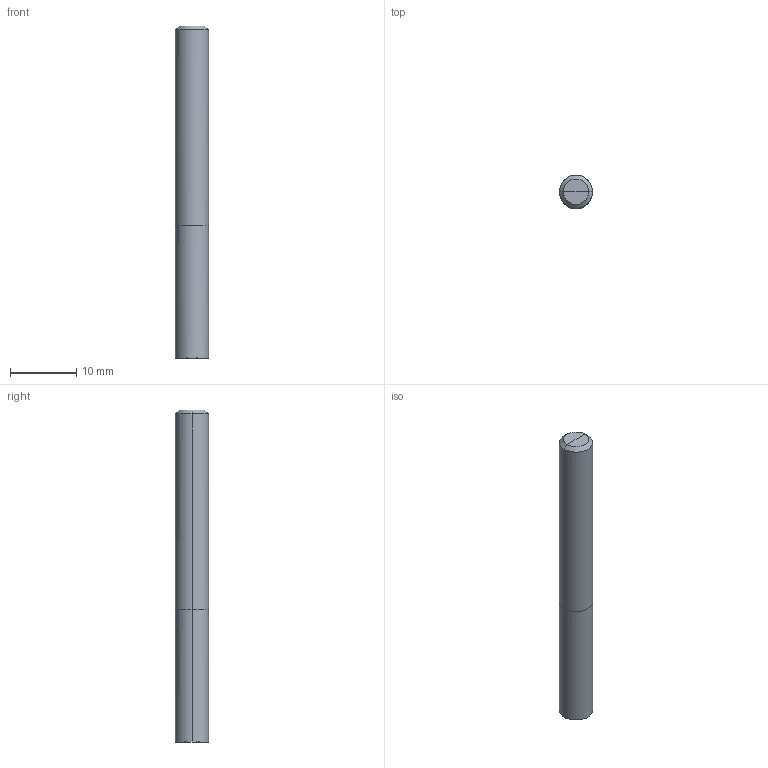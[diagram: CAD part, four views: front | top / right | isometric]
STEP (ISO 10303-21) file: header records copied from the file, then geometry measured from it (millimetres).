
FILE_DESCRIPTION(/* description */ (''),/* implementation_level */ '2;1');
FILE_NAME(/*name*/ '2041-5',/*time_stamp*/'2021-3-24T10:42:13',/*author*/ ('ISBE GmbH'),/*organization*/ ('ISBE GmbH'),/*preprocessor_version*/ 'STEP IO v1.0',/*originating_system*/ '',/*authorisation*/ '');
FILE_SCHEMA (('AUTOMOTIVE_DESIGN'));
Length unit declared in the file: millimetre
Products named in the file (1): Document
Bounding box: 5 x 5 x 50 mm (x, y, z)
Surface area: 859.2 mm2 (no closed solid volume)
Topology: 0 solids, 14 shells, 14 faces, 58 edges, 52 vertices
Faces by surface type: bspline 14
Entity records: 907 total; most frequent: CARTESIAN_POINT 642, VERTEX_POINT 48, EDGE_CURVE 48, ORIENTED_EDGE 48, DIRECTION 16, EDGE_LOOP 14, FACE_OUTER_BOUND 14, ADVANCED_FACE 14
